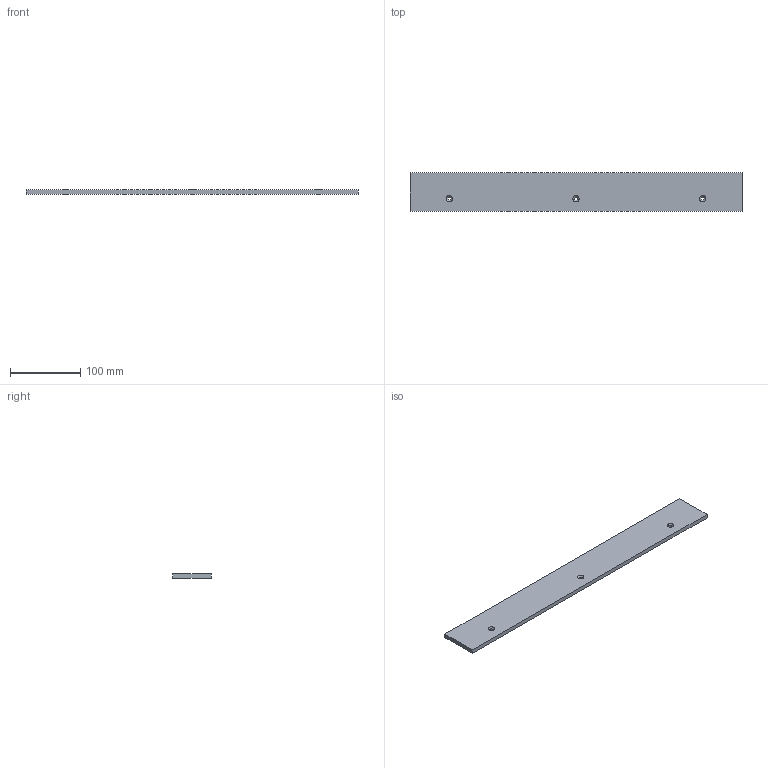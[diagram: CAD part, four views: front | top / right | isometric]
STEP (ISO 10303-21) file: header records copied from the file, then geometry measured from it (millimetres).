
FILE_DESCRIPTION (( 'STEP AP203' ), '1' );
FILE_NAME ('Planche_Fermeture.STEP', '2026-06-24T07:29:48', ( '' ), ( '' ), 'SwSTEP 2.0', 'SolidWorks 2024', '' );
FILE_SCHEMA (( 'CONFIG_CONTROL_DESIGN' ));
Length unit declared in the file: millimetre
Products named in the file (1): Planche_Fermeture
Bounding box: 472 x 55 x 6 mm (x, y, z)
Volume: 155287.2 mm3; surface area: 58369.3 mm2
Topology: 1 solids, 1 shells, 12 faces, 30 edges, 20 vertices
Faces by surface type: plane 6, cylinder 3, cone 3
Full cylindrical faces by diameter (mm): 5 x3
Entity records: 393 total; most frequent: DIRECTION 56, CARTESIAN_POINT 51, ORIENTED_EDGE 42, EDGE_LOOP 24, AXIS2_PLACEMENT_3D 22, EDGE_CURVE 21, VERTEX_POINT 17, FACE_OUTER_BOUND 15
